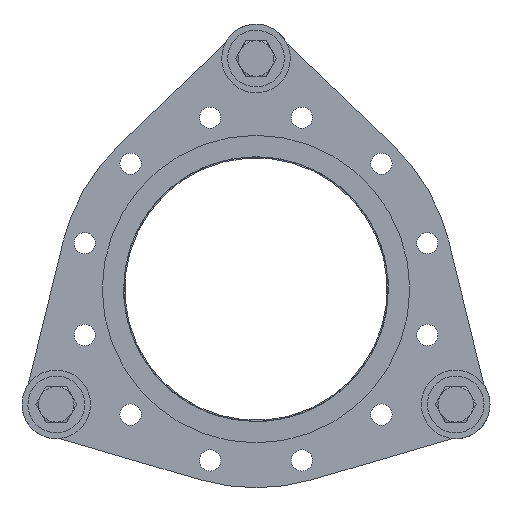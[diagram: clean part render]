
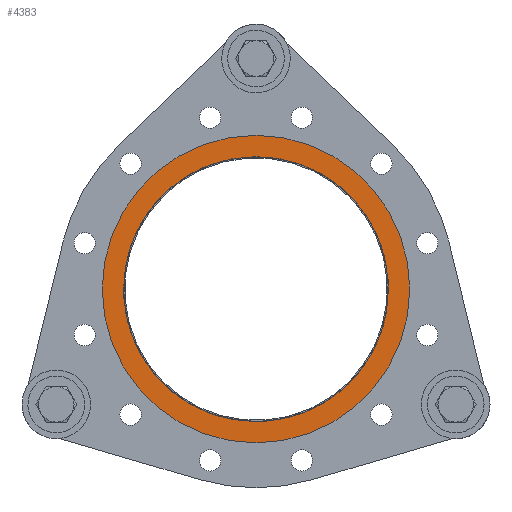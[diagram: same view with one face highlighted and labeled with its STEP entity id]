
A CAD part, front view. The second image highlights one B-rep face of the part: STEP entity #4383.
In plain terms, the highlighted planar face has unit normal (0, -1, 0).
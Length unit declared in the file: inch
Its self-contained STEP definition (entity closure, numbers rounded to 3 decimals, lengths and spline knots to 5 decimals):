
#452=PLANE('',#4795);
#640=FACE_BOUND('',#1253,.T.);
#875=FACE_OUTER_BOUND('',#1252,.T.);
#1252=EDGE_LOOP('',(#3070));
#1253=EDGE_LOOP('',(#3071));
#1779=CIRCLE('',#4791,7.);
#1780=CIRCLE('',#4793,8.125);
#2087=VERTEX_POINT('',#6830);
#2088=VERTEX_POINT('',#6833);
#2491=EDGE_CURVE('',#2087,#2087,#1779,.T.);
#2492=EDGE_CURVE('',#2088,#2088,#1780,.T.);
#3070=ORIENTED_EDGE('',*,*,#2492,.T.);
#3071=ORIENTED_EDGE('',*,*,#2491,.T.);
#4383=ADVANCED_FACE('',(#875,#640),#452,.T.);
#4791=AXIS2_PLACEMENT_3D('',#6831,#5542,#5543);
#4793=AXIS2_PLACEMENT_3D('',#6834,#5546,#5547);
#4795=AXIS2_PLACEMENT_3D('',#6837,#5550,#5551);
#5542=DIRECTION('center_axis',(0.,1.,0.));
#5543=DIRECTION('ref_axis',(-1.,0.,0.));
#5546=DIRECTION('center_axis',(0.,-1.,0.));
#5547=DIRECTION('ref_axis',(1.,0.,0.));
#5550=DIRECTION('center_axis',(0.,-1.,0.));
#5551=DIRECTION('ref_axis',(0.,0.,
1.));
#6830=CARTESIAN_POINT('',(-7.,0.,0.));
#6831=CARTESIAN_POINT('Origin',(0.,0.,
0.));
#6833=CARTESIAN_POINT('',(-8.125,0.,0.));
#6834=CARTESIAN_POINT('Origin',(0.,0.,
0.));
#6837=CARTESIAN_POINT('Origin',(0.,0.,
0.));
